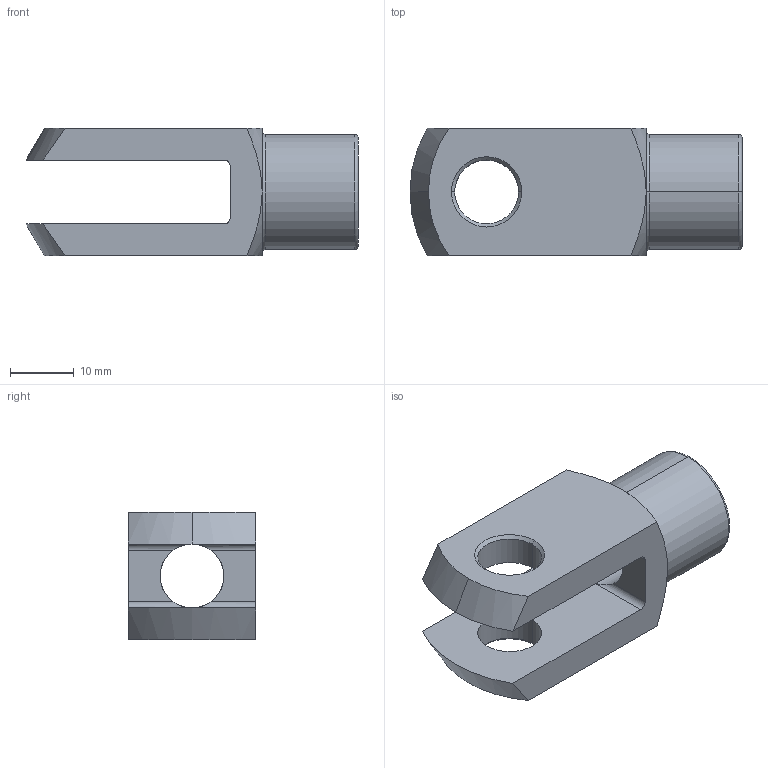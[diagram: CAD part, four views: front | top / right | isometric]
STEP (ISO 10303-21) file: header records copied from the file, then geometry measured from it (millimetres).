
FILE_DESCRIPTION (( 'STEP AP203' ), '1' );
FILE_NAME ('65636.W0103.step', '2014-01-17T13:12:20', ( 'User' ), ( '' ), 'SwSTEP 2.0', 'SolidWorks 2009', '' );
FILE_SCHEMA (( 'CONFIG_CONTROL_DESIGN' ));
Length unit declared in the file: millimetre
Products named in the file (1): 65636.W0103
Bounding box: 52 x 20 x 20 mm (x, y, z)
Volume: 9314.1 mm3; surface area: 5363.2 mm2
Topology: 1 solids, 1 shells, 39 faces, 93 edges, 56 vertices
Faces by surface type: cone 13, cylinder 12, plane 10, torus 4
Entity records: 1296 total; most frequent: CARTESIAN_POINT 301, DIRECTION 201, ORIENTED_EDGE 186, EDGE_CURVE 93, AXIS2_PLACEMENT_3D 84, VERTEX_POINT 56, EDGE_LOOP 45, CIRCLE 44
